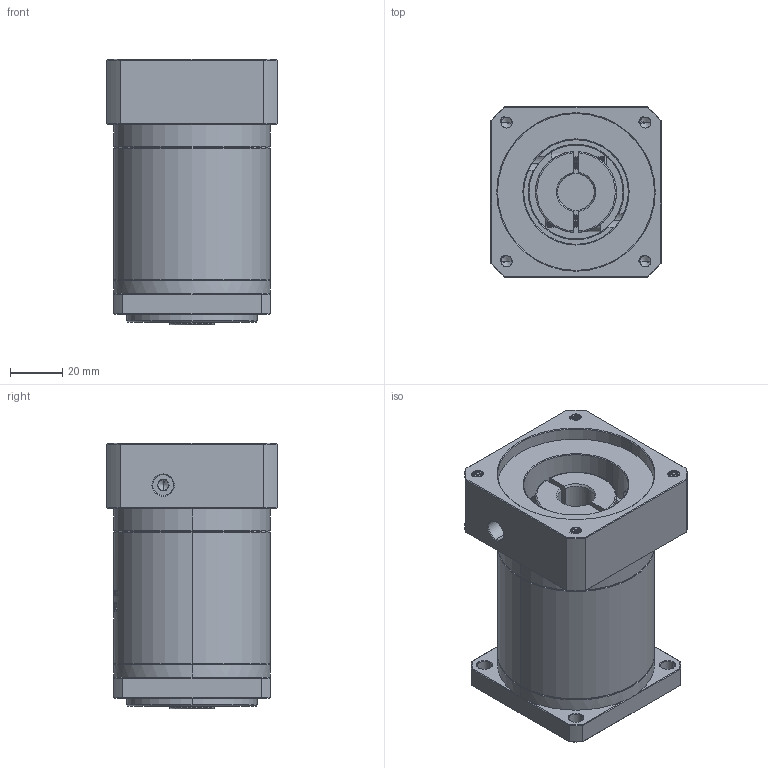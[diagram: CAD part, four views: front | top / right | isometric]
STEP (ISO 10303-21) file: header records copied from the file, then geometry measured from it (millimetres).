
FILE_DESCRIPTION (( 'STEP AP214' ), '1' );
FILE_NAME ('ZF60-K10-L2-14-60-75-M5.STEP', '2022-04-17T11:54:57', ( '' ), ( 'Microsoft' ), 'SwSTEP 2.0', 'SolidWorks 2016', '' );
FILE_SCHEMA (( 'AUTOMOTIVE_DESIGN' ));
Length unit declared in the file: millimetre
Products named in the file (1): ZF60-K10-L2-14-60-75-M5
Bounding box: 65 x 65 x 101.5 mm (x, y, z)
Volume: 276214.4 mm3; surface area: 48813.8 mm2
Topology: 6 solids, 6 shells, 1596 faces, 4314 edges, 2794 vertices
Faces by surface type: plane 742, cylinder 316, bspline 292, cone 228, torus 18
Entity records: 88190 total; most frequent: CARTESIAN_POINT 34012, ORIENTED_EDGE 8604, DIRECTION 6363, EDGE_CURVE 4302, VERTEX_POINT 2794, LINE 2221, VECTOR 2221, AXIS2_PLACEMENT_3D 2071
